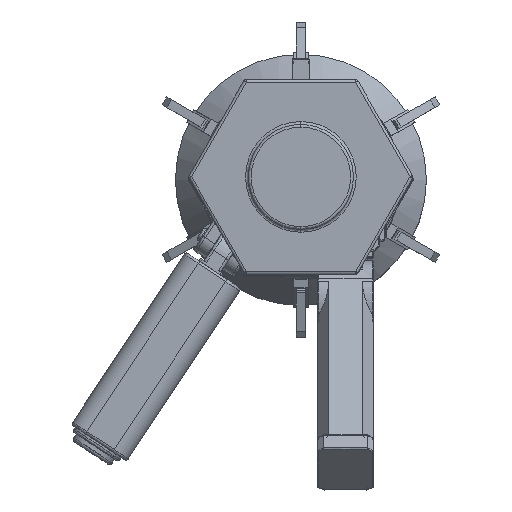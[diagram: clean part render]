
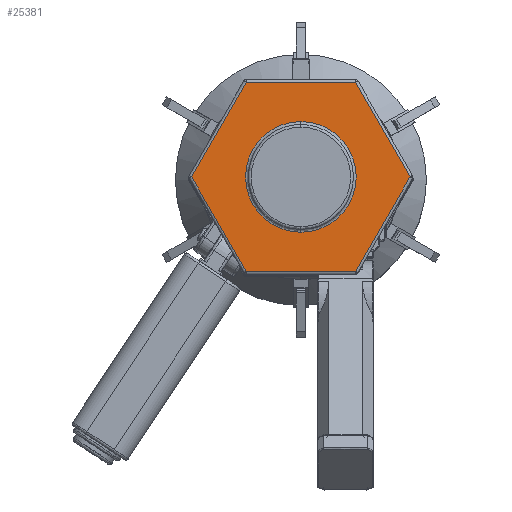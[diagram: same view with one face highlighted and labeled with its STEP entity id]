
A CAD part, top view. The second image highlights one B-rep face of the part: STEP entity #25381.
In plain terms, the highlighted free-form (B-spline) face has degree [1, 1] with [2, 2] control points.
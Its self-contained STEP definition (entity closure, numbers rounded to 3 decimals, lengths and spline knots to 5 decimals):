
#1938=LINE('',#49398,#4038);
#1939=LINE('',#49399,#4039);
#1940=LINE('',#49400,#4040);
#1941=LINE('',#49401,#4041);
#1942=LINE('',#49402,#4042);
#1943=LINE('',#49403,#4043);
#4038=VECTOR('',#31407,1.);
#4039=VECTOR('',#31408,1.);
#4040=VECTOR('',#31409,1.);
#4041=VECTOR('',#31410,1.);
#4042=VECTOR('',#31411,1.);
#4043=VECTOR('',#31412,1.);
#4992=B_SPLINE_SURFACE_WITH_KNOTS('',1,1,((#49394,#49395),(#49396,#49397)),
 .PLANE_SURF.,.F.,.F.,.F.,(2,2),(2,2),(0.,1.),(0.,1.),.UNSPECIFIED.);
#11606=ORIENTED_EDGE('',*,*,#15936,.T.);
#11607=ORIENTED_EDGE('',*,*,#15923,.T.);
#11608=ORIENTED_EDGE('',*,*,#15955,.F.);
#11609=ORIENTED_EDGE('',*,*,#15956,.T.);
#11610=ORIENTED_EDGE('',*,*,#15957,.T.);
#11611=ORIENTED_EDGE('',*,*,#15958,.T.);
#11612=ORIENTED_EDGE('',*,*,#15959,.T.);
#11613=ORIENTED_EDGE('',*,*,#15960,.F.);
#15923=EDGE_CURVE('',#18467,#18468,#19986,.F.);
#15936=EDGE_CURVE('',#18468,#18467,#19993,.F.);
#15955=EDGE_CURVE('',#18490,#18484,#1938,.T.);
#15956=EDGE_CURVE('',#18490,#18487,#1939,.T.);
#15957=EDGE_CURVE('',#18487,#18475,#1940,.T.);
#15958=EDGE_CURVE('',#18475,#18480,#1941,.T.);
#15959=EDGE_CURVE('',#18480,#18483,#1942,.T.);
#15960=EDGE_CURVE('',#18484,#18483,#1943,.T.);
#18467=VERTEX_POINT('',#49123);
#18468=VERTEX_POINT('',#49124);
#18475=VERTEX_POINT('',#49279);
#18480=VERTEX_POINT('',#49304);
#18483=VERTEX_POINT('',#49326);
#18484=VERTEX_POINT('',#49345);
#18487=VERTEX_POINT('',#49367);
#18490=VERTEX_POINT('',#49389);
#19986=CIRCLE('',#27037,0.02506);
#19993=CIRCLE('',#27044,0.02506);
#21437=EDGE_LOOP('',(#11606,#11607));
#21438=EDGE_LOOP('',(#11608,#11609,#11610,#11611,#11612,#11613));
#23021=FACE_BOUND('',#21437,.T.);
#23022=FACE_BOUND('',#21438,.T.);
#25381=ADVANCED_FACE('',(#23021,#23022),#4992,.T.);
#27037=AXIS2_PLACEMENT_3D('',#49122,#31355,#31356);
#27044=AXIS2_PLACEMENT_3D('',#49261,#31369,#31370);
#31355=DIRECTION('',(0.,0.,1.));
#31356=DIRECTION('',(0.,-1.,0.));
#31369=DIRECTION('',(0.,0.,1.));
#31370=DIRECTION('',(0.,-1.,0.));
#31407=DIRECTION('',(-0.5,0.866,0.));
#31408=DIRECTION('',(1.,0.,0.));
#31409=DIRECTION('',(0.5,0.866,0.));
#31410=DIRECTION('',(-0.5,0.866,0.));
#31411=DIRECTION('',(-1.,0.,0.));
#31412=DIRECTION('',(0.5,0.866,0.));
#49122=CARTESIAN_POINT('',(0.,0.,0.45466));
#49123=CARTESIAN_POINT('',(0.,0.02506,0.45466));
#49124=CARTESIAN_POINT('',(0.,-0.02506,0.45466));
#49261=CARTESIAN_POINT('',(0.,0.,0.45466));
#49279=CARTESIAN_POINT('',(0.0495,0.,0.45466));
#49304=CARTESIAN_POINT('',(0.02475,0.04287,0.45466));
#49326=CARTESIAN_POINT('',(-0.02475,0.04287,0.45466));
#49345=CARTESIAN_POINT('',(-0.0495,0.,0.45466));
#49367=CARTESIAN_POINT('',(0.02475,-0.04287,0.45466));
#49389=CARTESIAN_POINT('',(-0.02475,-0.04287,0.45466));
#49394=CARTESIAN_POINT('',(-0.0551,-0.04715,0.45466));
#49395=CARTESIAN_POINT('',(-0.0551,0.04715,0.45466));
#49396=CARTESIAN_POINT('',(0.0551,-0.04715,0.45466));
#49397=CARTESIAN_POINT('',(0.0551,0.04715,0.45466));
#49398=CARTESIAN_POINT('',(-0.04986,0.00064,0.45466));
#49399=CARTESIAN_POINT('',(0.02548,-0.04287,0.45466));
#49400=CARTESIAN_POINT('',(0.04986,0.00064,0.45466));
#49401=CARTESIAN_POINT('',(0.02438,0.0435,0.45466));
#49402=CARTESIAN_POINT('',(-0.02548,0.04287,0.45466));
#49403=CARTESIAN_POINT('',(-0.02438,0.0435,0.45466));
